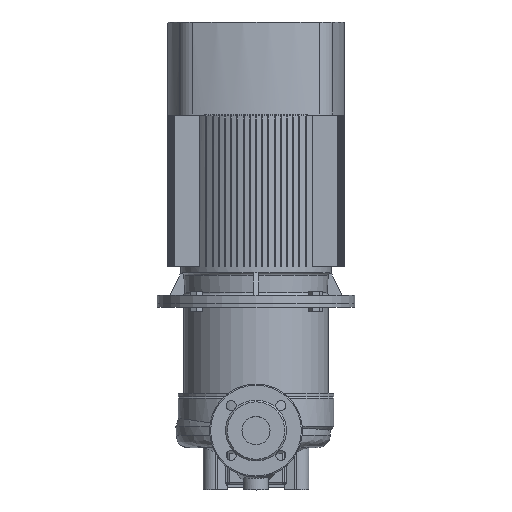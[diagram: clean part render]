
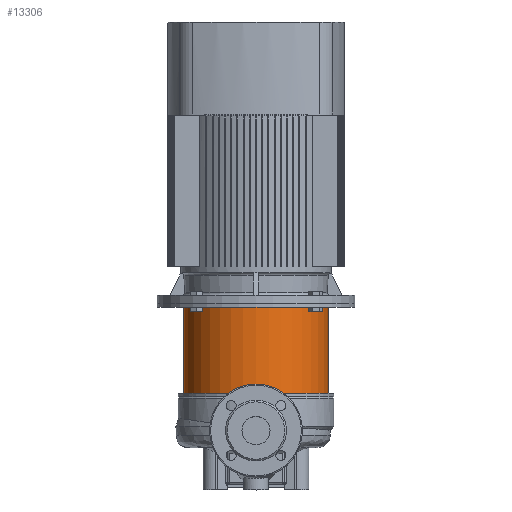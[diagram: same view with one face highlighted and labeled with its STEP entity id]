
A CAD part, top view. The second image highlights one B-rep face of the part: STEP entity #13306.
In plain terms, the highlighted cylindrical face has radius 128 mm (diameter 256 mm), a partial arc.
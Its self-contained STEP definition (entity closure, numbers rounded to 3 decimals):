
#589 = LINE ( 'NONE', #14433, #16547 ) ;
#651 = CYLINDRICAL_SURFACE ( 'NONE', #21394, 128. ) ;
#2142 = VERTEX_POINT ( 'NONE', #10051 ) ;
#2835 = EDGE_LOOP ( 'NONE', ( #12941, #25878, #3653, #28224 ) ) ;
#3361 = AXIS2_PLACEMENT_3D ( 'NONE', #3523, #23928, #12914 ) ;
#3523 = CARTESIAN_POINT ( 'NONE',  ( 0., 0., -6. ) ) ;
#3653 = ORIENTED_EDGE ( 'NONE', *, *, #21661, .T. ) ;
#4071 = EDGE_CURVE ( 'NONE', #2142, #8945, #7591, .T. ) ;
#4290 = EDGE_CURVE ( 'NONE', #12572, #29249, #8131, .T. ) ;
#7066 = DIRECTION ( 'NONE',  ( 0., 0., 1. ) ) ;
#7436 = DIRECTION ( 'NONE',  ( 0., 0., 1. ) ) ;
#7591 = CIRCLE ( 'NONE', #11388, 128. ) ;
#7672 = EDGE_CURVE ( 'NONE', #2142, #12572, #24046, .T. ) ;
#8131 = CIRCLE ( 'NONE', #3361, 128. ) ;
#8945 = VERTEX_POINT ( 'NONE', #13813 ) ;
#9070 = CARTESIAN_POINT ( 'NONE',  ( 0., 0., -159. ) ) ;
#10051 = CARTESIAN_POINT ( 'NONE',  ( -128., 0., -159. ) ) ;
#10708 = VECTOR ( 'NONE', #17354, 1000. ) ;
#11388 = AXIS2_PLACEMENT_3D ( 'NONE', #9070, #18158, #15904 ) ;
#12572 = VERTEX_POINT ( 'NONE', #17238 ) ;
#12914 = DIRECTION ( 'NONE',  ( 1., 0., 0. ) ) ;
#12941 = ORIENTED_EDGE ( 'NONE', *, *, #7672, .F. ) ;
#13306 = ADVANCED_FACE ( 'NONE', ( #23286 ), #651, .T. ) ;
#13813 = CARTESIAN_POINT ( 'NONE',  ( 128., 0., -159. ) ) ;
#14433 = CARTESIAN_POINT ( 'NONE',  ( 128., 0., 14.36 ) ) ;
#15904 = DIRECTION ( 'NONE',  ( 1., 0., 0. ) ) ;
#16547 = VECTOR ( 'NONE', #7436, 1000. ) ;
#17238 = CARTESIAN_POINT ( 'NONE',  ( -128., 0., -6. ) ) ;
#17354 = DIRECTION ( 'NONE',  ( 0., 0., 1. ) ) ;
#18158 = DIRECTION ( 'NONE',  ( 0., 0., 1. ) ) ;
#21394 = AXIS2_PLACEMENT_3D ( 'NONE', #27460, #7066, #27757 ) ;
#21661 = EDGE_CURVE ( 'NONE', #8945, #29249, #589, .T. ) ;
#23286 = FACE_OUTER_BOUND ( 'NONE', #2835, .T. ) ;
#23928 = DIRECTION ( 'NONE',  ( 0., 0., 1. ) ) ;
#24046 = LINE ( 'NONE', #26583, #10708 ) ;
#25878 = ORIENTED_EDGE ( 'NONE', *, *, #4071, .T. ) ;
#26583 = CARTESIAN_POINT ( 'NONE',  ( -128., 0., 14.36 ) ) ;
#27335 = CARTESIAN_POINT ( 'NONE',  ( 128., 0., -6. ) ) ;
#27460 = CARTESIAN_POINT ( 'NONE',  ( 0., 0., 14.36 ) ) ;
#27757 = DIRECTION ( 'NONE',  ( 1., 0., 0. ) ) ;
#28224 = ORIENTED_EDGE ( 'NONE', *, *, #4290, .F. ) ;
#29249 = VERTEX_POINT ( 'NONE', #27335 ) ;
